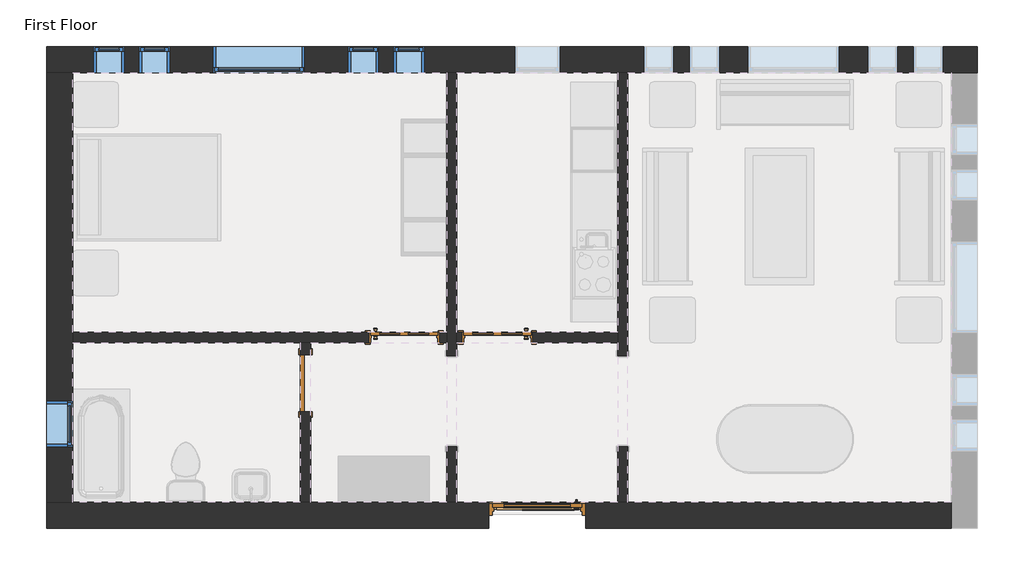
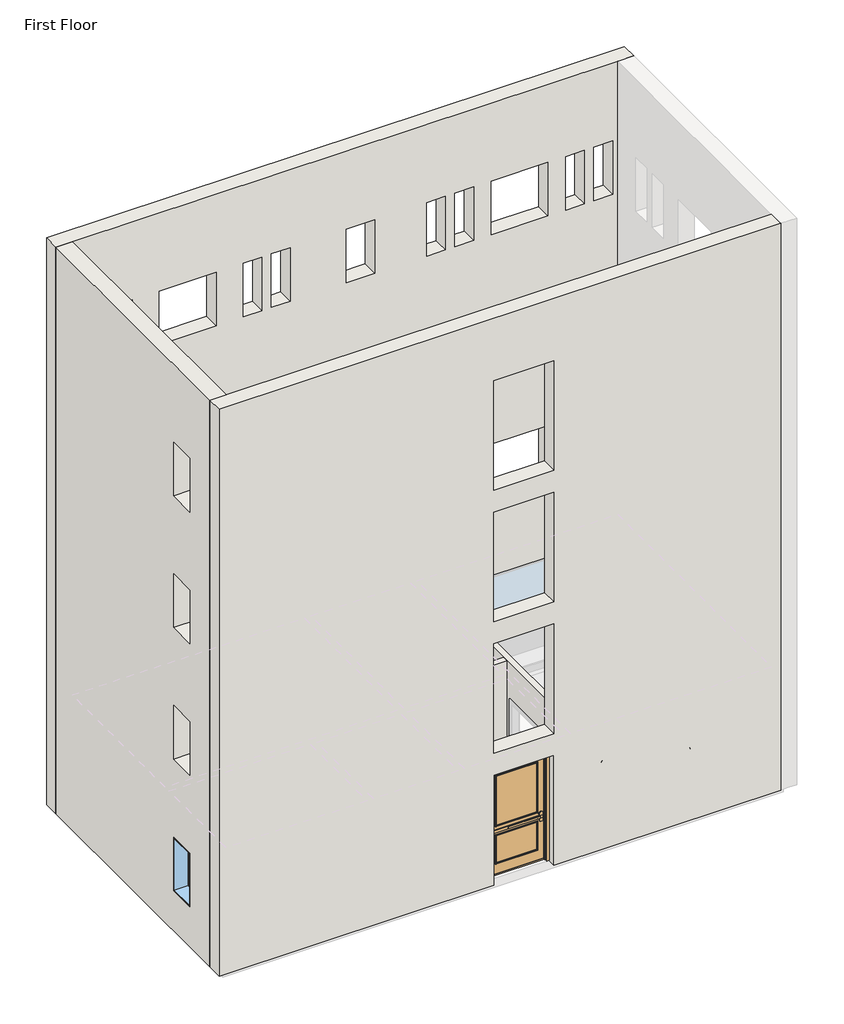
# One storey, part 1 of 2: 7 walls, 6 windows, 4 doors.
"""IFC4 building model written with IfcOpenShell, lengths in millimetres."""

from ifc_helpers import new_model, si_unit, frame, origin, place, context, project, spatial, polyline, outline, extrude, faceted_brep, transform, mapped, element, save
from components import m_door_exterior_single_two_lite_1200_x_2400mm_6ab66c40, m_door_interior_single_4_panel_wood_900_x_2100mm_1f4ed184, m_door_interior_single_4_panel_wood_900_x_2100mm_40914eee, m_single_flush_0762_x_2134mm_0d89e411, m_fixed_0406_x_1220mm_57fee329, m_fixed_0406_x_1220mm_85c28f40, m_fixed_0610_x_1220mm_2c28ef1d, m_fixed_1220_x_1220_e08ff7af

model = new_model("IFC4")

# Units and contexts
model_context = context("Model", 3, world=origin())
ifc_project = project(units=[si_unit("LENGTHUNIT", "METRE", prefix="MILLI")], contexts=[model_context])

# Site, building, storey
site = spatial("IfcSite", under=ifc_project)
building = spatial("IfcBuilding", under=site)
storey = spatial("IfcBuildingStorey", under=building, Name="First Floor", Elevation=0.0)

# Doors
placement = place(None, origin())
m_door_exterior_single_two_lite_1200_x_2400mm_shape = m_door_exterior_single_two_lite_1200_x_2400mm_6ab66c40(model_context)
element("IfcDoor", 1, ObjectType="M_Door-Exterior-Single-Two_Lite : 1200 x 2400mm", at=placement, inside=storey, context=model_context, shape_type="MappedRepresentation", body=[
    mapped(m_door_exterior_single_two_lite_1200_x_2400mm_shape, transform((-11984.0930086, 7923.7170483, 0.0), x_axis=(-1.0, 0.0, 0.0), y_axis=(0.0, -1.0, 0.0), z_axis=(0.0, 0.0, 1.0))),
])
m_door_interior_single_4_panel_wood_900_x_2100mm_shape = m_door_interior_single_4_panel_wood_900_x_2100mm_1f4ed184(model_context)
element("IfcDoor", 2, ObjectType="M_Door-Interior-Single-4_Panel-Wood : 900 x 2100mm", at=placement, inside=storey, context=model_context, shape_type="MappedRepresentation", body=[
    mapped(m_door_interior_single_4_panel_wood_900_x_2100mm_shape, transform((-12518.0930086, 10309.9920483, 0.0), x_axis=(-1.0, 0.0, 0.0), y_axis=(0.0, -1.0, 0.0), z_axis=(0.0, 0.0, 1.0))),
])
m_door_interior_single_4_panel_wood_900_x_2100mm_2_shape = m_door_interior_single_4_panel_wood_900_x_2100mm_40914eee(model_context)
element("IfcDoor", 3, ObjectType="M_Door-Interior-Single-4_Panel-Wood : 900 x 2100mm", at=placement, inside=storey, context=model_context, shape_type="MappedRepresentation", body=[
    mapped(m_door_interior_single_4_panel_wood_900_x_2100mm_2_shape, transform((-13766.0930086, 10309.9920483, 0.0), x_axis=(1.0, 0.0, 0.0), y_axis=(0.0, 1.0, 0.0), z_axis=(0.0, 0.0, 1.0))),
])
m_single_flush_0762_x_2134mm_shape = m_single_flush_0762_x_2134mm_0d89e411(model_context)
element("IfcDoor", 4, ObjectType="M_Single-Flush : 0762 x 2134mm", at=placement, inside=storey, context=model_context, shape_type="MappedRepresentation", body=[
    mapped(m_single_flush_0762_x_2134mm_shape, transform((-15086.0930086, 9696.8170483, 0.0), x_axis=(0.0, 1.0, 0.0), y_axis=(-1.0, 0.0, 0.0), z_axis=(0.0, 0.0, 1.0))),
])

# Walls
element("IfcWall", 5, ObjectType="Exterior - Brick on Mtl. Stud", at=placement, inside=storey, context=model_context, shape_type="Brep", body=[
    faceted_brep([(-18551.8430086, 13851.0670483, 0.0), (-18366.8430086, 13851.0670483, 0.0), (-18201.8430086, 13851.0670483, 0.0), (-13194.8430086, 13851.0670483, 0.0), (-13059.3430086, 13851.0670483, 0.0), (-10908.8430086, 13851.0670483, 0.0), (-10773.3430086, 13851.0670483, 0.0), (-6444.0930086, 13851.0670483, 0.0), (-6279.0930086, 13851.0670483, 0.0), (-6094.0930086, 13851.0670483, 0.0), (-6094.0930086, 13851.0670483, 12915.0), (-6444.0930086, 13851.0670483, 12915.0), (-18201.8430086, 13851.0670483, 12915.0), (-18551.8430086, 13851.0670483, 12915.0), (-11679.0930086, 13851.0670483, 915.0), (-12289.0930086, 13851.0670483, 915.0), (-12289.0930086, 13851.0670483, 2135.0), (-11679.0930086, 13851.0670483, 2135.0), (-15099.8430086, 13851.0670483, 915.0), (-16319.8430086, 13851.0670483, 915.0), (-16319.8430086, 13851.0670483, 2135.0), (-15099.8430086, 13851.0670483, 2135.0), (-7945.0930086, 13851.0670483, 915.0), (-9165.0930086, 13851.0670483, 915.0), (-9165.0930086, 13851.0670483, 2135.0), (-7945.0930086, 13851.0670483, 2135.0), (-17919.4430086, 13851.0670483, 915.0), (-17919.4430086, 13851.0670483, 2135.0), (-17513.4430086, 13851.0670483, 2135.0), (-17513.4430086, 13851.0670483, 915.0), (-17309.8430086, 13851.0670483, 915.0), (-17309.8430086, 13851.0670483, 2135.0), (-16903.8430086, 13851.0670483, 2135.0), (-16903.8430086, 13851.0670483, 915.0), (-14109.8430086, 13851.0670483, 915.0), (-14515.8430086, 13851.0670483, 915.0), (-14515.8430086, 13851.0670483, 2135.0), (-14109.8430086, 13851.0670483, 2135.0), (-13500.2430086, 13851.0670483, 915.0), (-13906.2430086, 13851.0670483, 915.0), (-13906.2430086, 13851.0670483, 2135.0), (-13500.2430086, 13851.0670483, 2135.0), (-10155.0930086, 13851.0670483, 915.0), (-10561.0930086, 13851.0670483, 915.0), (-10561.0930086, 13851.0670483, 2135.0), (-10155.0930086, 13851.0670483, 2135.0), (-9545.4930086, 13851.0670483, 915.0), (-9951.4930086, 13851.0670483, 915.0), (-9951.4930086, 13851.0670483, 2135.0), (-9545.4930086, 13851.0670483, 2135.0), (-6955.0930086, 13851.0670483, 915.0), (-6955.0930086, 13851.0670483, 2135.0), (-6549.0930086, 13851.0670483, 2135.0), (-6549.0930086, 13851.0670483, 915.0), (-7564.6930086, 13851.0670483, 915.0), (-7564.6930086, 13851.0670483, 2135.0), (-7158.6930086, 13851.0670483, 2135.0), (-7158.6930086, 13851.0670483, 915.0), (-6955.0930086, 13851.0670483, 9915.0), (-6955.0930086, 13851.0670483, 11135.0), (-6549.0930086, 13851.0670483, 11135.0), (-6549.0930086, 13851.0670483, 9915.0), (-7564.6930086, 13851.0670483, 9915.0), (-7564.6930086, 13851.0670483, 11135.0), (-7158.6930086, 13851.0670483, 11135.0), (-7158.6930086, 13851.0670483, 9915.0), (-10155.0930086, 13851.0670483, 9915.0), (-10561.0930086, 13851.0670483, 9915.0), (-10561.0930086, 13851.0670483, 11135.0), (-10155.0930086, 13851.0670483, 11135.0), (-9545.4930086, 13851.0670483, 9915.0), (-9951.4930086, 13851.0670483, 9915.0), (-9951.4930086, 13851.0670483, 11135.0), (-9545.4930086, 13851.0670483, 11135.0), (-14109.8430086, 13851.0670483, 9915.0), (-14515.8430086, 13851.0670483, 9915.0), (-14515.8430086, 13851.0670483, 11135.0), (-14109.8430086, 13851.0670483, 11135.0), (-13500.2430086, 13851.0670483, 9915.0), (-13906.2430086, 13851.0670483, 9915.0), (-13906.2430086, 13851.0670483, 11135.0), (-13500.2430086, 13851.0670483, 11135.0), (-17309.8430086, 13851.0670483, 9915.0), (-17309.8430086, 13851.0670483, 11135.0), (-16903.8430086, 13851.0670483, 11135.0), (-16903.8430086, 13851.0670483, 9915.0), (-17919.4430086, 13851.0670483, 9915.0), (-17919.4430086, 13851.0670483, 11135.0), (-17513.4430086, 13851.0670483, 11135.0), (-17513.4430086, 13851.0670483, 9915.0), (-7945.0930086, 13851.0670483, 9915.0), (-9165.0930086, 13851.0670483, 9915.0), (-9165.0930086, 13851.0670483, 11135.0), (-7945.0930086, 13851.0670483, 11135.0), (-15099.8430086, 13851.0670483, 9915.0), (-16319.8430086, 13851.0670483, 9915.0), (-16319.8430086, 13851.0670483, 11135.0), (-15099.8430086, 13851.0670483, 11135.0), (-11679.0930086, 13851.0670483, 9915.0), (-12289.0930086, 13851.0670483, 9915.0), (-12289.0930086, 13851.0670483, 11135.0), (-11679.0930086, 13851.0670483, 11135.0), (-6955.0930086, 13851.0670483, 3915.0), (-6955.0930086, 13851.0670483, 5135.0), (-6549.0930086, 13851.0670483, 5135.0), (-6549.0930086, 13851.0670483, 3915.0), (-7564.6930086, 13851.0670483, 3915.0), (-7564.6930086, 13851.0670483, 5135.0), (-7158.6930086, 13851.0670483, 5135.0), (-7158.6930086, 13851.0670483, 3915.0), (-10155.0930086, 13851.0670483, 3915.0), (-10561.0930086, 13851.0670483, 3915.0), (-10561.0930086, 13851.0670483, 5135.0), (-10155.0930086, 13851.0670483, 5135.0), (-9545.4930086, 13851.0670483, 3915.0), (-9951.4930086, 13851.0670483, 3915.0), (-9951.4930086, 13851.0670483, 5135.0), (-9545.4930086, 13851.0670483, 5135.0), (-14109.8430086, 13851.0670483, 3915.0), (-14515.8430086, 13851.0670483, 3915.0), (-14515.8430086, 13851.0670483, 5135.0), (-14109.8430086, 13851.0670483, 5135.0), (-13500.2430086, 13851.0670483, 3915.0), (-13906.2430086, 13851.0670483, 3915.0), (-13906.2430086, 13851.0670483, 5135.0), (-13500.2430086, 13851.0670483, 5135.0), (-17309.8430086, 13851.0670483, 3915.0), (-17309.8430086, 13851.0670483, 5135.0), (-16903.8430086, 13851.0670483, 5135.0), (-16903.8430086, 13851.0670483, 3915.0), (-17919.4430086, 13851.0670483, 3915.0), (-17919.4430086, 13851.0670483, 5135.0), (-17513.4430086, 13851.0670483, 5135.0), (-17513.4430086, 13851.0670483, 3915.0), (-7945.0930086, 13851.0670483, 3915.0), (-9165.0930086, 13851.0670483, 3915.0), (-9165.0930086, 13851.0670483, 5135.0), (-7945.0930086, 13851.0670483, 5135.0), (-15099.8430086, 13851.0670483, 3915.0), (-16319.8430086, 13851.0670483, 3915.0), (-16319.8430086, 13851.0670483, 5135.0), (-15099.8430086, 13851.0670483, 5135.0), (-11679.0930086, 13851.0670483, 3915.0), (-12289.0930086, 13851.0670483, 3915.0), (-12289.0930086, 13851.0670483, 5135.0), (-11679.0930086, 13851.0670483, 5135.0), (-6955.0930086, 13851.0670483, 6915.0), (-6955.0930086, 13851.0670483, 8135.0), (-6549.0930086, 13851.0670483, 8135.0), (-6549.0930086, 13851.0670483, 6915.0), (-7564.6930086, 13851.0670483, 6915.0), (-7564.6930086, 13851.0670483, 8135.0), (-7158.6930086, 13851.0670483, 8135.0), (-7158.6930086, 13851.0670483, 6915.0), (-10155.0930086, 13851.0670483, 6915.0), (-10561.0930086, 13851.0670483, 6915.0), (-10561.0930086, 13851.0670483, 8135.0), (-10155.0930086, 13851.0670483, 8135.0), (-9545.4930086, 13851.0670483, 6915.0), (-9951.4930086, 13851.0670483, 6915.0), (-9951.4930086, 13851.0670483, 8135.0), (-9545.4930086, 13851.0670483, 8135.0), (-14109.8430086, 13851.0670483, 6915.0), (-14515.8430086, 13851.0670483, 6915.0), (-14515.8430086, 13851.0670483, 8135.0), (-14109.8430086, 13851.0670483, 8135.0), (-13500.2430086, 13851.0670483, 6915.0), (-13906.2430086, 13851.0670483, 6915.0), (-13906.2430086, 13851.0670483, 8135.0), (-13500.2430086, 13851.0670483, 8135.0), (-17309.8430086, 13851.0670483, 6915.0), (-17309.8430086, 13851.0670483, 8135.0), (-16903.8430086, 13851.0670483, 8135.0), (-16903.8430086, 13851.0670483, 6915.0), (-17919.4430086, 13851.0670483, 6915.0), (-17919.4430086, 13851.0670483, 8135.0), (-17513.4430086, 13851.0670483, 8135.0), (-17513.4430086, 13851.0670483, 6915.0), (-7945.0930086, 13851.0670483, 6915.0), (-9165.0930086, 13851.0670483, 6915.0), (-9165.0930086, 13851.0670483, 8135.0), (-7945.0930086, 13851.0670483, 8135.0), (-15099.8430086, 13851.0670483, 6915.0), (-16319.8430086, 13851.0670483, 6915.0), (-16319.8430086, 13851.0670483, 8135.0), (-15099.8430086, 13851.0670483, 8135.0), (-11679.0930086, 13851.0670483, 6915.0), (-12289.0930086, 13851.0670483, 6915.0), (-12289.0930086, 13851.0670483, 8135.0), (-11679.0930086, 13851.0670483, 8135.0), (-18551.8430086, 14201.0670483, 0.0), (-18551.8430086, 14201.0670483, 12915.0), (-6094.0930086, 14201.0670483, 12915.0), (-6094.0930086, 14201.0670483, 0.0), (-6279.0930086, 14201.0670483, 0.0), (-18366.8430086, 14201.0670483, 0.0), (-11679.0930086, 14201.0670483, 915.0), (-11679.0930086, 14201.0670483, 2135.0), (-12289.0930086, 14201.0670483, 2135.0), (-12289.0930086, 14201.0670483, 915.0), (-15099.8430086, 14201.0670483, 915.0), (-15099.8430086, 14201.0670483, 2135.0), (-16319.8430086, 14201.0670483, 2135.0), (-16319.8430086, 14201.0670483, 915.0), (-7945.0930086, 14201.0670483, 915.0), (-7945.0930086, 14201.0670483, 2135.0), (-9165.0930086, 14201.0670483, 2135.0), (-9165.0930086, 14201.0670483, 915.0), (-17919.4430086, 14201.0670483, 915.0), (-17513.4430086, 14201.0670483, 915.0), (-17513.4430086, 14201.0670483, 2135.0), (-17919.4430086, 14201.0670483, 2135.0), (-17309.8430086, 14201.0670483, 915.0), (-16903.8430086, 14201.0670483, 915.0), (-16903.8430086, 14201.0670483, 2135.0), (-17309.8430086, 14201.0670483, 2135.0), (-14109.8430086, 14201.0670483, 915.0), (-14109.8430086, 14201.0670483, 2135.0), (-14515.8430086, 14201.0670483, 2135.0), (-14515.8430086, 14201.0670483, 915.0), (-13500.2430086, 14201.0670483, 915.0), (-13500.2430086, 14201.0670483, 2135.0), (-13906.2430086, 14201.0670483, 2135.0), (-13906.2430086, 14201.0670483, 915.0), (-10155.0930086, 14201.0670483, 915.0), (-10155.0930086, 14201.0670483, 2135.0), (-10561.0930086, 14201.0670483, 2135.0), (-10561.0930086, 14201.0670483, 915.0), (-9545.4930086, 14201.0670483, 915.0), (-9545.4930086, 14201.0670483, 2135.0), (-9951.4930086, 14201.0670483, 2135.0), (-9951.4930086, 14201.0670483, 915.0), (-6955.0930086, 14201.0670483, 915.0), (-6549.0930086, 14201.0670483, 915.0), (-6549.0930086, 14201.0670483, 2135.0), (-6955.0930086, 14201.0670483, 2135.0), (-7564.6930086, 14201.0670483, 915.0), (-7158.6930086, 14201.0670483, 915.0), (-7158.6930086, 14201.0670483, 2135.0), (-7564.6930086, 14201.0670483, 2135.0), (-6955.0930086, 14201.0670483, 9915.0), (-6549.0930086, 14201.0670483, 9915.0), (-6549.0930086, 14201.0670483, 11135.0), (-6955.0930086, 14201.0670483, 11135.0), (-7564.6930086, 14201.0670483, 9915.0), (-7158.6930086, 14201.0670483, 9915.0), (-7158.6930086, 14201.0670483, 11135.0), (-7564.6930086, 14201.0670483, 11135.0), (-10155.0930086, 14201.0670483, 9915.0), (-10155.0930086, 14201.0670483, 11135.0), (-10561.0930086, 14201.0670483, 11135.0), (-10561.0930086, 14201.0670483, 9915.0), (-9545.4930086, 14201.0670483, 9915.0), (-9545.4930086, 14201.0670483, 11135.0), (-9951.4930086, 14201.0670483, 11135.0), (-9951.4930086, 14201.0670483, 9915.0), (-14109.8430086, 14201.0670483, 9915.0), (-14109.8430086, 14201.0670483, 11135.0), (-14515.8430086, 14201.0670483, 11135.0), (-14515.8430086, 14201.0670483, 9915.0), (-13500.2430086, 14201.0670483, 9915.0), (-13500.2430086, 14201.0670483, 11135.0), (-13906.2430086, 14201.0670483, 11135.0), (-13906.2430086, 14201.0670483, 9915.0), (-17309.8430086, 14201.0670483, 9915.0), (-16903.8430086, 14201.0670483, 9915.0), (-16903.8430086, 14201.0670483, 11135.0), (-17309.8430086, 14201.0670483, 11135.0), (-17919.4430086, 14201.0670483, 9915.0), (-17513.4430086, 14201.0670483, 9915.0), (-17513.4430086, 14201.0670483, 11135.0), (-17919.4430086, 14201.0670483, 11135.0), (-7945.0930086, 14201.0670483, 9915.0), (-7945.0930086, 14201.0670483, 11135.0), (-9165.0930086, 14201.0670483, 11135.0), (-9165.0930086, 14201.0670483, 9915.0), (-15099.8430086, 14201.0670483, 9915.0), (-15099.8430086, 14201.0670483, 11135.0), (-16319.8430086, 14201.0670483, 11135.0), (-16319.8430086, 14201.0670483, 9915.0), (-11679.0930086, 14201.0670483, 9915.0), (-11679.0930086, 14201.0670483, 11135.0), (-12289.0930086, 14201.0670483, 11135.0), (-12289.0930086, 14201.0670483, 9915.0), (-6955.0930086, 14201.0670483, 3915.0), (-6549.0930086, 14201.0670483, 3915.0), (-6549.0930086, 14201.0670483, 5135.0), (-6955.0930086, 14201.0670483, 5135.0), (-7564.6930086, 14201.0670483, 3915.0), (-7158.6930086, 14201.0670483, 3915.0), (-7158.6930086, 14201.0670483, 5135.0), (-7564.6930086, 14201.0670483, 5135.0), (-10155.0930086, 14201.0670483, 3915.0), (-10155.0930086, 14201.0670483, 5135.0), (-10561.0930086, 14201.0670483, 5135.0), (-10561.0930086, 14201.0670483, 3915.0), (-9545.4930086, 14201.0670483, 3915.0), (-9545.4930086, 14201.0670483, 5135.0), (-9951.4930086, 14201.0670483, 5135.0), (-9951.4930086, 14201.0670483, 3915.0), (-14109.8430086, 14201.0670483, 3915.0), (-14109.8430086, 14201.0670483, 5135.0), (-14515.8430086, 14201.0670483, 5135.0), (-14515.8430086, 14201.0670483, 3915.0), (-13500.2430086, 14201.0670483, 3915.0), (-13500.2430086, 14201.0670483, 5135.0), (-13906.2430086, 14201.0670483, 5135.0), (-13906.2430086, 14201.0670483, 3915.0), (-17309.8430086, 14201.0670483, 3915.0), (-16903.8430086, 14201.0670483, 3915.0), (-16903.8430086, 14201.0670483, 5135.0), (-17309.8430086, 14201.0670483, 5135.0), (-17919.4430086, 14201.0670483, 3915.0), (-17513.4430086, 14201.0670483, 3915.0), (-17513.4430086, 14201.0670483, 5135.0), (-17919.4430086, 14201.0670483, 5135.0), (-7945.0930086, 14201.0670483, 3915.0), (-7945.0930086, 14201.0670483, 5135.0), (-9165.0930086, 14201.0670483, 5135.0), (-9165.0930086, 14201.0670483, 3915.0), (-15099.8430086, 14201.0670483, 3915.0), (-15099.8430086, 14201.0670483, 5135.0), (-16319.8430086, 14201.0670483, 5135.0), (-16319.8430086, 14201.0670483, 3915.0), (-11679.0930086, 14201.0670483, 3915.0), (-11679.0930086, 14201.0670483, 5135.0), (-12289.0930086, 14201.0670483, 5135.0), (-12289.0930086, 14201.0670483, 3915.0), (-6955.0930086, 14201.0670483, 6915.0), (-6549.0930086, 14201.0670483, 6915.0), (-6549.0930086, 14201.0670483, 8135.0), (-6955.0930086, 14201.0670483, 8135.0), (-7564.6930086, 14201.0670483, 6915.0), (-7158.6930086, 14201.0670483, 6915.0), (-7158.6930086, 14201.0670483, 8135.0), (-7564.6930086, 14201.0670483, 8135.0), (-10155.0930086, 14201.0670483, 6915.0), (-10155.0930086, 14201.0670483, 8135.0), (-10561.0930086, 14201.0670483, 8135.0), (-10561.0930086, 14201.0670483, 6915.0), (-9545.4930086, 14201.0670483, 6915.0), (-9545.4930086, 14201.0670483, 8135.0), (-9951.4930086, 14201.0670483, 8135.0), (-9951.4930086, 14201.0670483, 6915.0), (-14109.8430086, 14201.0670483, 6915.0), (-14109.8430086, 14201.0670483, 8135.0), (-14515.8430086, 14201.0670483, 8135.0), (-14515.8430086, 14201.0670483, 6915.0), (-13500.2430086, 14201.0670483, 6915.0), (-13500.2430086, 14201.0670483, 8135.0), (-13906.2430086, 14201.0670483, 8135.0), (-13906.2430086, 14201.0670483, 6915.0), (-17309.8430086, 14201.0670483, 6915.0), (-16903.8430086, 14201.0670483, 6915.0), (-16903.8430086, 14201.0670483, 8135.0), (-17309.8430086, 14201.0670483, 8135.0), (-17919.4430086, 14201.0670483, 6915.0), (-17513.4430086, 14201.0670483, 6915.0), (-17513.4430086, 14201.0670483, 8135.0), (-17919.4430086, 14201.0670483, 8135.0), (-7945.0930086, 14201.0670483, 6915.0), (-7945.0930086, 14201.0670483, 8135.0), (-9165.0930086, 14201.0670483, 8135.0), (-9165.0930086, 14201.0670483, 6915.0), (-15099.8430086, 14201.0670483, 6915.0), (-15099.8430086, 14201.0670483, 8135.0), (-16319.8430086, 14201.0670483, 8135.0), (-16319.8430086, 14201.0670483, 6915.0), (-11679.0930086, 14201.0670483, 6915.0), (-11679.0930086, 14201.0670483, 8135.0), (-12289.0930086, 14201.0670483, 8135.0), (-12289.0930086, 14201.0670483, 6915.0), (-6094.0930086, 14016.0670483, 0.0), (-18551.8430086, 14016.0670483, 0.0), (-18366.8430086, 14016.0670483, 0.0), (-6279.0930086, 14016.0670483, 0.0)], [[[0, 1, 2, 3, 4, 5, 6, 7, 8, 9, 10, 11, 12, 13], [14, 15, 16, 17], [18, 19, 20, 21], [22, 23, 24, 25], [26, 27, 28, 29], [30, 31, 32, 33], [34, 35, 36, 37], [38, 39, 40, 41], [42, 43, 44, 45], [46, 47, 48, 49], [50, 51, 52, 53], [54, 55, 56, 57], [58, 59, 60, 61], [62, 63, 64, 65], [66, 67, 68, 69], [70, 71, 72, 73], [74, 75, 76, 77], [78, 79, 80, 81], [82, 83, 84, 85], [86, 87, 88, 89], [90, 91, 92, 93], [94, 95, 96, 97], [98, 99, 100, 101], [102, 103, 104, 105], [106, 107, 108, 109], [110, 111, 112, 113], [114, 115, 116, 117], [118, 119, 120, 121], [122, 123, 124, 125], [126, 127, 128, 129], [130, 131, 132, 133], [134, 135, 136, 137], [138, 139, 140, 141], [142, 143, 144, 145], [146, 147, 148, 149], [150, 151, 152, 153], [154, 155, 156, 157], [158, 159, 160, 161], [162, 163, 164, 165], [166, 167, 168, 169], [170, 171, 172, 173], [174, 175, 176, 177], [178, 179, 180, 181], [182, 183, 184, 185], [186, 187, 188, 189]], [[190, 191, 192, 193, 194, 195], [196, 197, 198, 199], [200, 201, 202, 203], [204, 205, 206, 207], [208, 209, 210, 211], [212, 213, 214, 215], [216, 217, 218, 219], [220, 221, 222, 223], [224, 225, 226, 227], [228, 229, 230, 231], [232, 233, 234, 235], [236, 237, 238, 239], [240, 241, 242, 243], [244, 245, 246, 247], [248, 249, 250, 251], [252, 253, 254, 255], [256, 257, 258, 259], [260, 261, 262, 263], [264, 265, 266, 267], [268, 269, 270, 271], [272, 273, 274, 275], [276, 277, 278, 279], [280, 281, 282, 283], [284, 285, 286, 287], [288, 289, 290, 291], [292, 293, 294, 295], [296, 297, 298, 299], [300, 301, 302, 303], [304, 305, 306, 307], [308, 309, 310, 311], [312, 313, 314, 315], [316, 317, 318, 319], [320, 321, 322, 323], [324, 325, 326, 327], [328, 329, 330, 331], [332, 333, 334, 335], [336, 337, 338, 339], [340, 341, 342, 343], [344, 345, 346, 347], [348, 349, 350, 351], [352, 353, 354, 355], [356, 357, 358, 359], [360, 361, 362, 363], [364, 365, 366, 367], [368, 369, 370, 371]], [[13, 12, 11, 10, 192, 191]], [[10, 9, 372, 193, 192]], [[0, 13, 191, 190, 373]], [[197, 196, 14, 17]], [[198, 197, 17, 16]], [[199, 198, 16, 15]], [[196, 199, 15, 14]], [[201, 200, 18, 21]], [[202, 201, 21, 20]], [[203, 202, 20, 19]], [[200, 203, 19, 18]], [[205, 204, 22, 25]], [[206, 205, 25, 24]], [[207, 206, 24, 23]], [[204, 207, 23, 22]], [[27, 26, 208, 211]], [[28, 27, 211, 210]], [[29, 28, 210, 209]], [[26, 29, 209, 208]], [[31, 30, 212, 215]], [[32, 31, 215, 214]], [[33, 32, 214, 213]], [[30, 33, 213, 212]], [[217, 216, 34, 37]], [[218, 217, 37, 36]], [[219, 218, 36, 35]], [[216, 219, 35, 34]], [[221, 220, 38, 41]], [[222, 221, 41, 40]], [[223, 222, 40, 39]], [[220, 223, 39, 38]], [[225, 224, 42, 45]], [[226, 225, 45, 44]], [[227, 226, 44, 43]], [[224, 227, 43, 42]], [[229, 228, 46, 49]], [[230, 229, 49, 48]], [[231, 230, 48, 47]], [[228, 231, 47, 46]], [[51, 50, 232, 235]], [[52, 51, 235, 234]], [[53, 52, 234, 233]], [[50, 53, 233, 232]], [[55, 54, 236, 239]], [[56, 55, 239, 238]], [[57, 56, 238, 237]], [[54, 57, 237, 236]], [[1, 0, 373, 374]], [[373, 190, 195, 374]], [[9, 8, 375, 372]], [[195, 194, 375, 374]], [[194, 193, 372, 375]], [[8, 7, 6, 5, 4, 3, 2, 1, 374, 375]], [[59, 58, 240, 243]], [[60, 59, 243, 242]], [[61, 60, 242, 241]], [[58, 61, 241, 240]], [[63, 62, 244, 247]], [[64, 63, 247, 246]], [[65, 64, 246, 245]], [[62, 65, 245, 244]], [[249, 248, 66, 69]], [[250, 249, 69, 68]], [[251, 250, 68, 67]], [[248, 251, 67, 66]], [[253, 252, 70, 73]], [[254, 253, 73, 72]], [[255, 254, 72, 71]], [[252, 255, 71, 70]], [[257, 256, 74, 77]], [[258, 257, 77, 76]], [[259, 258, 76, 75]], [[256, 259, 75, 74]], [[261, 260, 78, 81]], [[262, 261, 81, 80]], [[263, 262, 80, 79]], [[260, 263, 79, 78]], [[83, 82, 264, 267]], [[84, 83, 267, 266]], [[85, 84, 266, 265]], [[82, 85, 265, 264]], [[87, 86, 268, 271]], [[88, 87, 271, 270]], [[89, 88, 270, 269]], [[86, 89, 269, 268]], [[273, 272, 90, 93]], [[274, 273, 93, 92]], [[275, 274, 92, 91]], [[272, 275, 91, 90]], [[277, 276, 94, 97]], [[278, 277, 97, 96]], [[279, 278, 96, 95]], [[276, 279, 95, 94]], [[281, 280, 98, 101]], [[282, 281, 101, 100]], [[283, 282, 100, 99]], [[280, 283, 99, 98]], [[103, 102, 284, 287]], [[104, 103, 287, 286]], [[105, 104, 286, 285]], [[102, 105, 285, 284]], [[107, 106, 288, 291]], [[108, 107, 291, 290]], [[109, 108, 290, 289]], [[106, 109, 289, 288]], [[293, 292, 110, 113]], [[294, 293, 113, 112]], [[295, 294, 112, 111]], [[292, 295, 111, 110]], [[297, 296, 114, 117]], [[298, 297, 117, 116]], [[299, 298, 116, 115]], [[296, 299, 115, 114]], [[301, 300, 118, 121]], [[302, 301, 121, 120]], [[303, 302, 120, 119]], [[300, 303, 119, 118]], [[305, 304, 122, 125]], [[306, 305, 125, 124]], [[307, 306, 124, 123]], [[304, 307, 123, 122]], [[127, 126, 308, 311]], [[128, 127, 311, 310]], [[129, 128, 310, 309]], [[126, 129, 309, 308]], [[131, 130, 312, 315]], [[132, 131, 315, 314]], [[133, 132, 314, 313]], [[130, 133, 313, 312]], [[317, 316, 134, 137]], [[318, 317, 137, 136]], [[319, 318, 136, 135]], [[316, 319, 135, 134]], [[321, 320, 138, 141]], [[322, 321, 141, 140]], [[323, 322, 140, 139]], [[320, 323, 139, 138]], [[325, 324, 142, 145]], [[326, 325, 145, 144]], [[327, 326, 144, 143]], [[324, 327, 143, 142]], [[147, 146, 328, 331]], [[148, 147, 331, 330]], [[149, 148, 330, 329]], [[146, 149, 329, 328]], [[151, 150, 332, 335]], [[152, 151, 335, 334]], [[153, 152, 334, 333]], [[150, 153, 333, 332]], [[337, 336, 154, 157]], [[338, 337, 157, 156]], [[339, 338, 156, 155]], [[336, 339, 155, 154]], [[341, 340, 158, 161]], [[342, 341, 161, 160]], [[343, 342, 160, 159]], [[340, 343, 159, 158]], [[345, 344, 162, 165]], [[346, 345, 165, 164]], [[347, 346, 164, 163]], [[344, 347, 163, 162]], [[349, 348, 166, 169]], [[350, 349, 169, 168]], [[351, 350, 168, 167]], [[348, 351, 167, 166]], [[171, 170, 352, 355]], [[172, 171, 355, 354]], [[173, 172, 354, 353]], [[170, 173, 353, 352]], [[175, 174, 356, 359]], [[176, 175, 359, 358]], [[177, 176, 358, 357]], [[174, 177, 357, 356]], [[361, 360, 178, 181]], [[362, 361, 181, 180]], [[363, 362, 180, 179]], [[360, 363, 179, 178]], [[365, 364, 182, 185]], [[366, 365, 185, 184]], [[367, 366, 184, 183]], [[364, 367, 183, 182]], [[369, 368, 186, 189]], [[370, 369, 189, 188]], [[371, 370, 188, 187]], [[368, 371, 187, 186]]]),
])
element("IfcWall", 6, ObjectType="Exterior - Brick on Mtl. Stud", at=placement, inside=storey, context=model_context, shape_type="Brep", body=[
    faceted_brep([(-18551.8430086, 8105.0670483, 12915.0), (-18201.8430086, 8105.0670483, 12915.0), (-6444.0930086, 8105.0670483, 12915.0), (-6444.0930086, 8105.0670483, 0.0), (-10773.3430086, 8105.0670483, 0.0), (-10908.8430086, 8105.0670483, 0.0), (-11334.0930086, 8105.0670483, 0.0), (-11334.0930086, 8105.0670483, 2500.0), (-12634.0930086, 8105.0670483, 2500.0), (-12634.0930086, 8105.0670483, 0.0), (-13059.3430086, 8105.0670483, 0.0), (-13194.8430086, 8105.0670483, 0.0), (-15018.3430086, 8105.0670483, 0.0), (-15153.8430086, 8105.0670483, 0.0), (-18201.8430086, 8105.0670483, 0.0), (-18551.8430086, 8105.0670483, 0.0), (-11334.0930086, 8105.0670483, 9000.0), (-11334.0930086, 8105.0670483, 11500.0), (-12634.0930086, 8105.0670483, 11500.0), (-12634.0930086, 8105.0670483, 9000.0), (-11334.0930086, 8105.0670483, 3000.0), (-11334.0930086, 8105.0670483, 5500.0), (-12634.0930086, 8105.0670483, 5500.0), (-12634.0930086, 8105.0670483, 3000.0), (-11334.0930086, 8105.0670483, 6000.0), (-11334.0930086, 8105.0670483, 8500.0), (-12634.0930086, 8105.0670483, 8500.0), (-12634.0930086, 8105.0670483, 6000.0), (-6444.0930086, 7755.0670483, 12915.0), (-18551.8430086, 7755.0670483, 12915.0), (-18551.8430086, 7755.0670483, 0.0), (-12634.0930086, 7755.0670483, 0.0), (-12634.0930086, 7755.0670483, 2500.0), (-11334.0930086, 7755.0670483, 2500.0), (-11334.0930086, 7755.0670483, 0.0), (-6444.0930086, 7755.0670483, 0.0), (-11334.0930086, 7755.0670483, 9000.0), (-12634.0930086, 7755.0670483, 9000.0), (-12634.0930086, 7755.0670483, 11500.0), (-11334.0930086, 7755.0670483, 11500.0), (-11334.0930086, 7755.0670483, 3000.0), (-12634.0930086, 7755.0670483, 3000.0), (-12634.0930086, 7755.0670483, 5500.0), (-11334.0930086, 7755.0670483, 5500.0), (-11334.0930086, 7755.0670483, 6000.0), (-12634.0930086, 7755.0670483, 6000.0), (-12634.0930086, 7755.0670483, 8500.0), (-11334.0930086, 7755.0670483, 8500.0)], [[[0, 1, 2, 3, 4, 5, 6, 7, 8, 9, 10, 11, 12, 13, 14, 15], [16, 17, 18, 19], [20, 21, 22, 23], [24, 25, 26, 27]], [[28, 29, 30, 31, 32, 33, 34, 35], [36, 37, 38, 39], [40, 41, 42, 43], [44, 45, 46, 47]], [[3, 35, 34, 6, 5, 4]], [[30, 15, 14, 13, 12, 11, 10, 9, 31]], [[2, 1, 0, 29, 28]], [[3, 2, 28, 35]], [[0, 15, 30, 29]], [[8, 32, 31, 9]], [[32, 8, 7, 33]], [[33, 7, 6, 34]], [[17, 16, 36, 39]], [[18, 17, 39, 38]], [[19, 18, 38, 37]], [[16, 19, 37, 36]], [[21, 20, 40, 43]], [[22, 21, 43, 42]], [[23, 22, 42, 41]], [[20, 23, 41, 40]], [[25, 24, 44, 47]], [[26, 25, 47, 46]], [[27, 26, 46, 45]], [[24, 27, 45, 44]]]),
])
element("IfcWall", 7, ObjectType="Exterior - Brick on Mtl. Stud", at=placement, inside=storey, context=model_context, shape_type="Brep", body=[
    faceted_brep([(-18201.8430086, 8105.0670483, 0.0), (-18201.8430086, 10239.0670483, 0.0), (-18201.8430086, 10374.5670483, 0.0), (-18201.8430086, 13851.0670483, 0.0), (-18201.8430086, 13851.0670483, 12915.0), (-18201.8430086, 8105.0670483, 12915.0), (-18201.8430086, 9455.0670483, 915.0), (-18201.8430086, 8845.0670483, 915.0), (-18201.8430086, 8845.0670483, 2135.0), (-18201.8430086, 9455.0670483, 2135.0), (-18201.8430086, 9455.0670483, 9915.0), (-18201.8430086, 8845.0670483, 9915.0), (-18201.8430086, 8845.0670483, 11135.0), (-18201.8430086, 9455.0670483, 11135.0), (-18201.8430086, 9455.0670483, 3915.0), (-18201.8430086, 8845.0670483, 3915.0), (-18201.8430086, 8845.0670483, 5135.0), (-18201.8430086, 9455.0670483, 5135.0), (-18201.8430086, 9455.0670483, 6915.0), (-18201.8430086, 8845.0670483, 6915.0), (-18201.8430086, 8845.0670483, 8135.0), (-18201.8430086, 9455.0670483, 8135.0), (-18551.8430086, 8105.0670483, 0.0), (-18551.8430086, 8105.0670483, 12915.0), (-18551.8430086, 13851.0670483, 12915.0), (-18551.8430086, 13851.0670483, 0.0), (-18551.8430086, 9455.0670483, 915.0), (-18551.8430086, 9455.0670483, 2135.0), (-18551.8430086, 8845.0670483, 2135.0), (-18551.8430086, 8845.0670483, 915.0), (-18551.8430086, 9455.0670483, 9915.0), (-18551.8430086, 9455.0670483, 11135.0), (-18551.8430086, 8845.0670483, 11135.0), (-18551.8430086, 8845.0670483, 9915.0), (-18551.8430086, 9455.0670483, 3915.0), (-18551.8430086, 9455.0670483, 5135.0), (-18551.8430086, 8845.0670483, 5135.0), (-18551.8430086, 8845.0670483, 3915.0), (-18551.8430086, 9455.0670483, 6915.0), (-18551.8430086, 9455.0670483, 8135.0), (-18551.8430086, 8845.0670483, 8135.0), (-18551.8430086, 8845.0670483, 6915.0), (-18366.8430086, 8105.0670483, 0.0), (-18366.8430086, 13851.0670483, 0.0)], [[[0, 1, 2, 3, 4, 5], [6, 7, 8, 9], [10, 11, 12, 13], [14, 15, 16, 17], [18, 19, 20, 21]], [[22, 23, 24, 25], [26, 27, 28, 29], [30, 31, 32, 33], [34, 35, 36, 37], [38, 39, 40, 41]], [[5, 4, 24, 23]], [[0, 5, 23, 22, 42]], [[4, 3, 43, 25, 24]], [[27, 26, 6, 9]], [[28, 27, 9, 8]], [[29, 28, 8, 7]], [[26, 29, 7, 6]], [[42, 22, 25, 43]], [[3, 2, 1, 0, 42, 43]], [[31, 30, 10, 13]], [[32, 31, 13, 12]], [[33, 32, 12, 11]], [[30, 33, 11, 10]], [[35, 34, 14, 17]], [[36, 35, 17, 16]], [[37, 36, 16, 15]], [[34, 37, 15, 14]], [[39, 38, 18, 21]], [[40, 39, 21, 20]], [[41, 40, 20, 19]], [[38, 41, 19, 18]]]),
])
element("IfcWall", 8, ObjectType="Interior - 135mm Partition (2-hr)", at=placement, inside=storey, context=model_context, shape_type="Brep", body=[
    faceted_brep([(-10908.8430086, 13851.0670483, 0.0), (-10908.8430086, 10374.5670483, 0.0), (-10908.8430086, 10239.0670483, 0.0), (-10908.8430086, 10064.0670483, 0.0), (-10908.8430086, 10064.0670483, 2134.0), (-10908.8430086, 8844.0670483, 2134.0), (-10908.8430086, 8844.0670483, 0.0), (-10908.8430086, 8105.0670483, 0.0), (-10908.8430086, 8105.0670483, 3000.0), (-10908.8430086, 10239.0670483, 3000.0), (-10908.8430086, 10374.5670483, 3000.0), (-10908.8430086, 13851.0670483, 3000.0), (-10773.3430086, 10064.0670483, 2134.0), (-10773.3430086, 10064.0670483, 0.0), (-10773.3430086, 13851.0670483, 0.0), (-10773.3430086, 13851.0670483, 3000.0), (-10773.3430086, 8105.0670483, 3000.0), (-10773.3430086, 8105.0670483, 0.0), (-10773.3430086, 8844.0670483, 0.0), (-10773.3430086, 8844.0670483, 2134.0)], [[[0, 1, 2, 3, 4, 5, 6, 7, 8, 9, 10, 11]], [[12, 13, 14, 15, 16, 17, 18, 19]], [[18, 17, 7, 6]], [[14, 13, 3, 2, 1, 0]], [[11, 10, 9, 8, 16, 15]], [[0, 11, 15, 14]], [[8, 7, 17, 16]], [[6, 5, 19, 18]], [[4, 3, 13, 12]], [[5, 4, 12, 19]]]),
])
element("IfcWall", 9, ObjectType="Interior - 135mm Partition (2-hr)", at=placement, inside=storey, context=model_context, shape_type="Brep", body=[
    faceted_brep([(-13194.8430086, 8105.0670483, 3000.0), (-13194.8430086, 10239.0670483, 3000.0), (-13194.8430086, 10374.5670483, 3000.0), (-13194.8430086, 13851.0670483, 3000.0), (-13194.8430086, 13851.0670483, 0.0), (-13194.8430086, 10374.5670483, 0.0), (-13194.8430086, 10239.0670483, 0.0), (-13194.8430086, 10064.0670483, 0.0), (-13194.8430086, 10064.0670483, 2134.0), (-13194.8430086, 8844.0670483, 2134.0), (-13194.8430086, 8844.0670483, 0.0), (-13194.8430086, 8105.0670483, 0.0), (-13059.3430086, 13851.0670483, 3000.0), (-13059.3430086, 10374.5670483, 3000.0), (-13059.3430086, 10239.0670483, 3000.0), (-13059.3430086, 8105.0670483, 3000.0), (-13059.3430086, 8105.0670483, 0.0), (-13059.3430086, 8844.0670483, 0.0), (-13059.3430086, 8844.0670483, 2134.0), (-13059.3430086, 10064.0670483, 2134.0), (-13059.3430086, 10064.0670483, 0.0), (-13059.3430086, 10239.0670483, 0.0), (-13059.3430086, 10374.5670483, 0.0), (-13059.3430086, 13851.0670483, 0.0)], [[[0, 1, 2, 3, 4, 5, 6, 7, 8, 9, 10, 11]], [[12, 13, 14, 15, 16, 17, 18, 19, 20, 21, 22, 23]], [[4, 23, 22, 21, 20, 7, 6, 5]], [[16, 11, 10, 17]], [[3, 2, 1, 0, 15, 14, 13, 12]], [[4, 3, 12, 23]], [[0, 11, 16, 15]], [[19, 8, 7, 20]], [[9, 18, 17, 10]], [[8, 19, 18, 9]]]),
])
element("IfcWall", 10, ObjectType="Interior - 135mm Partition (2-hr)", at=placement, inside=storey, context=model_context, shape_type="Brep", body=[
    faceted_brep([(-18201.8430086, 10239.0670483, 3000.0), (-18201.8430086, 10239.0670483, 0.0), (-15153.8430086, 10239.0670483, 0.0), (-15018.3430086, 10239.0670483, 0.0), (-14241.0930086, 10239.0670483, 0.0), (-14241.0930086, 10239.0670483, 2125.0), (-13291.0930086, 10239.0670483, 2125.0), (-13291.0930086, 10239.0670483, 0.0), (-13194.8430086, 10239.0670483, 0.0), (-13194.8430086, 10239.0670483, 3000.0), (-15018.3430086, 10239.0670483, 3000.0), (-15153.8430086, 10239.0670483, 3000.0), (-18201.8430086, 10374.5670483, 0.0), (-18201.8430086, 10374.5670483, 3000.0), (-13194.8430086, 10374.5670483, 3000.0), (-13194.8430086, 10374.5670483, 0.0), (-13291.0930086, 10374.5670483, 0.0), (-13291.0930086, 10374.5670483, 2125.0), (-14241.0930086, 10374.5670483, 2125.0), (-14241.0930086, 10374.5670483, 0.0)], [[[0, 1, 2, 3, 4, 5, 6, 7, 8, 9, 10, 11]], [[12, 13, 14, 15, 16, 17, 18, 19]], [[1, 12, 19, 4, 3, 2]], [[7, 16, 15, 8]], [[13, 0, 11, 10, 9, 14]], [[1, 0, 13, 12]], [[9, 8, 15, 14]], [[6, 17, 16, 7]], [[17, 6, 5, 18]], [[18, 5, 4, 19]]]),
    faceted_brep([(-10908.8430086, 10239.0670483, 0.0), (-10908.8430086, 10239.0670483, 3000.0), (-13059.3430086, 10239.0670483, 3000.0), (-13059.3430086, 10239.0670483, 0.0), (-12993.0930086, 10239.0670483, 0.0), (-12993.0930086, 10239.0670483, 2125.0), (-12043.0930086, 10239.0670483, 2125.0), (-12043.0930086, 10239.0670483, 0.0), (-10908.8430086, 10374.5670483, 3000.0), (-10908.8430086, 10374.5670483, 0.0), (-12043.0930086, 10374.5670483, 0.0), (-12043.0930086, 10374.5670483, 2125.0), (-12993.0930086, 10374.5670483, 2125.0), (-12993.0930086, 10374.5670483, 0.0), (-13059.3430086, 10374.5670483, 0.0), (-13059.3430086, 10374.5670483, 3000.0)], [[[0, 1, 2, 3, 4, 5, 6, 7]], [[8, 9, 10, 11, 12, 13, 14, 15]], [[9, 0, 7, 10]], [[13, 4, 3, 14]], [[1, 8, 15, 2]], [[1, 0, 9, 8]], [[3, 2, 15, 14]], [[5, 4, 13, 12]], [[6, 5, 12, 11]], [[7, 6, 11, 10]]]),
])
element("IfcWall", 11, ObjectType="Interior - 135mm Partition (2-hr)", at=placement, inside=storey, context=model_context, shape_type="SweptSolid", body=[
    extrude(outline(polyline([(10239.0670483, 0.0), (10077.8170483, 0.0), (10077.8170483, 2134.0), (9315.8170483, 2134.0), (9315.8170483, 0.0), (8105.0670483, 0.0), (8105.0670483, 3000.0), (10239.0670483, 3000.0), (10239.0670483, 0.0)])), frame((-15153.8430086, 0.0, 0.0), z_axis=(1.0, 0.0, 0.0), x_axis=(0.0, 1.0, 0.0)), (0.0, 0.0, 1.0), 135.5),
])

# Windows
m_fixed_0406_x_1220mm_shape = m_fixed_0406_x_1220mm_57fee329(model_context)
element("IfcWindow", 12, ObjectType="M_Fixed : 0406 x 1220mm", at=placement, inside=storey, context=model_context, shape_type="MappedRepresentation", body=[
    mapped(m_fixed_0406_x_1220mm_shape, transform((-17716.4430086, 14013.0670483, 0.0), x_axis=(1.0, 0.0, 0.0), y_axis=(0.0, 1.0, 0.0), z_axis=(0.0, 0.0, 1.0))),
])
element("IfcWindow", 13, ObjectType="M_Fixed : 0406 x 1220mm", at=placement, inside=storey, context=model_context, shape_type="MappedRepresentation", body=[
    mapped(m_fixed_0406_x_1220mm_shape, transform((-17106.8430086, 14013.0670483, 0.0), x_axis=(1.0, 0.0, 0.0), y_axis=(0.0, 1.0, 0.0), z_axis=(0.0, 0.0, 1.0))),
])
m_fixed_0406_x_1220mm_2_shape = m_fixed_0406_x_1220mm_85c28f40(model_context)
element("IfcWindow", 14, ObjectType="M_Fixed : 0406 x 1220mm", at=placement, inside=storey, context=model_context, shape_type="MappedRepresentation", body=[
    mapped(m_fixed_0406_x_1220mm_2_shape, transform((-13703.2430086, 14013.0670483, 0.0), x_axis=(-1.0, 0.0, 0.0), y_axis=(0.0, -1.0, 0.0), z_axis=(0.0, 0.0, 1.0))),
])
element("IfcWindow", 15, ObjectType="M_Fixed : 0406 x 1220mm", at=placement, inside=storey, context=model_context, shape_type="MappedRepresentation", body=[
    mapped(m_fixed_0406_x_1220mm_2_shape, transform((-14312.8430086, 14013.0670483, 0.0), x_axis=(-1.0, 0.0, 0.0), y_axis=(0.0, -1.0, 0.0), z_axis=(0.0, 0.0, 1.0))),
])
m_fixed_0610_x_1220mm_shape = m_fixed_0610_x_1220mm_2c28ef1d(model_context)
element("IfcWindow", 16, ObjectType="M_Fixed : 0610 x 1220mm", at=placement, inside=storey, context=model_context, shape_type="MappedRepresentation", body=[
    mapped(m_fixed_0610_x_1220mm_shape, transform((-18389.8430086, 9150.0670483, 0.0), x_axis=(0.0, -1.0, 0.0), y_axis=(1.0, 0.0, 0.0), z_axis=(0.0, 0.0, 1.0))),
])
m_fixed_1220_x_1220_shape = m_fixed_1220_x_1220_e08ff7af(model_context)
element("IfcWindow", 17, ObjectType="M_Fixed : 1220 x 1220", at=placement, inside=storey, context=model_context, shape_type="MappedRepresentation", body=[
    mapped(m_fixed_1220_x_1220_shape, transform((-15709.8430086, 14039.0670483, 0.0), x_axis=(-1.0, 0.0, 0.0), y_axis=(0.0, -1.0, 0.0), z_axis=(0.0, 0.0, 1.0))),
])

save(model, "model.ifc")
